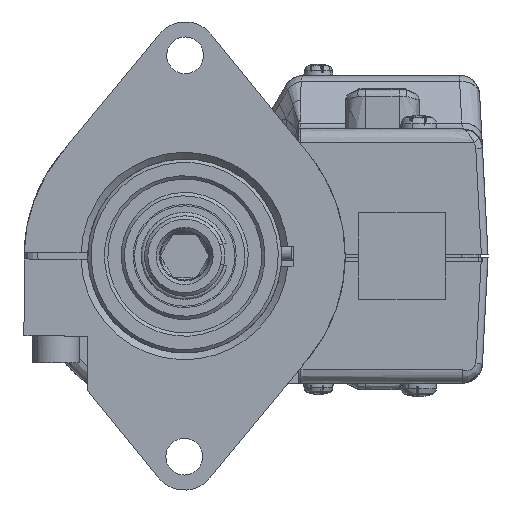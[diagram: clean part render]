
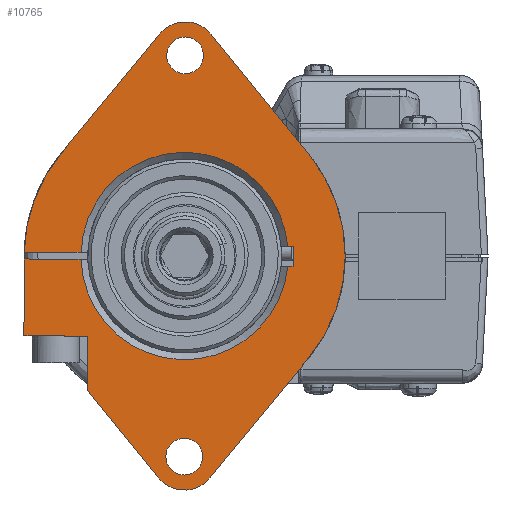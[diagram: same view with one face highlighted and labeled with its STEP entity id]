
A CAD part, left-side view. The second image highlights one B-rep face of the part: STEP entity #10765.
In plain terms, the highlighted planar face has unit normal (-1, 0, 0).
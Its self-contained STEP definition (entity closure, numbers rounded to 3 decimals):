
#9475=CARTESIAN_POINT('',(227.286,541.517,-20.248));
#9476=VERTEX_POINT('',#9475);
#9483=CARTESIAN_POINT('',(227.286,556.26,-38.182));
#9484=VERTEX_POINT('',#9483);
#9485=CARTESIAN_POINT('',(227.286,556.26,-38.182));
#9486=DIRECTION('',(0.,-0.635,0.772));
#9487=VECTOR('',#9486,23.216);
#9488=LINE('',#9485,#9487);
#9489=EDGE_CURVE('',#9484,#9476,#9488,.T.);
#9514=CARTESIAN_POINT('',(227.286,541.45,10.152));
#9515=VERTEX_POINT('',#9514);
#9522=CARTESIAN_POINT('',(227.286,560.057,-5.007));
#9523=DIRECTION('',(-1.,0.,0.));
#9524=DIRECTION('',(0.,-0.772,-0.635));
#9525=AXIS2_PLACEMENT_3D('',#9522,#9523,#9524);
#9526=CIRCLE('',#9525,24.);
#9527=EDGE_CURVE('',#9476,#9515,#9526,.T.);
#9546=CARTESIAN_POINT('',(227.286,556.114,28.151));
#9547=VERTEX_POINT('',#9546);
#9554=CARTESIAN_POINT('',(227.286,541.45,10.152));
#9555=DIRECTION('',(0.,0.632,0.775));
#9556=VECTOR('',#9555,23.216);
#9557=LINE('',#9554,#9556);
#9558=EDGE_CURVE('',#9515,#9547,#9557,.T.);
#9578=CARTESIAN_POINT('',(227.286,563.853,28.168));
#9579=VERTEX_POINT('',#9578);
#9586=CARTESIAN_POINT('',(227.286,559.991,24.993));
#9587=DIRECTION('',(-1.,0.,0.));
#9588=DIRECTION('',(0.,-0.775,0.632));
#9589=AXIS2_PLACEMENT_3D('',#9586,#9587,#9588);
#9590=CIRCLE('',#9589,5.);
#9591=EDGE_CURVE('',#9547,#9579,#9590,.T.);
#9636=CARTESIAN_POINT('',(227.286,578.596,10.234));
#9637=VERTEX_POINT('',#9636);
#9644=CARTESIAN_POINT('',(227.286,563.853,28.168));
#9645=DIRECTION('',(0.,0.635,-0.772));
#9646=VECTOR('',#9645,23.216);
#9647=LINE('',#9644,#9646);
#9648=EDGE_CURVE('',#9579,#9637,#9647,.T.);
#9668=CARTESIAN_POINT('',(227.286,584.05,-4.454));
#9669=VERTEX_POINT('',#9668);
#9676=CARTESIAN_POINT('',(227.286,560.057,-5.007));
#9677=DIRECTION('',(-1.,0.,0.));
#9678=DIRECTION('',(0.,0.772,0.635));
#9679=AXIS2_PLACEMENT_3D('',#9676,#9677,#9678);
#9680=CIRCLE('',#9679,24.);
#9681=EDGE_CURVE('',#9637,#9669,#9680,.T.);
#9731=CARTESIAN_POINT('',(227.286,543.86,-6.543));
#9732=VERTEX_POINT('',#9731);
#9739=CARTESIAN_POINT('',(227.286,543.853,-3.543));
#9740=VERTEX_POINT('',#9739);
#9741=CARTESIAN_POINT('',(227.286,543.853,-3.543));
#9742=DIRECTION('',(0.,0.002,-1.));
#9743=VECTOR('',#9742,3.);
#9744=LINE('',#9741,#9743);
#9745=EDGE_CURVE('',#9740,#9732,#9744,.T.);
#9771=CARTESIAN_POINT('',(227.286,584.083,-16.954));
#9772=VERTEX_POINT('',#9771);
#9779=CARTESIAN_POINT('',(227.286,584.058,-5.454));
#9780=VERTEX_POINT('',#9779);
#9781=CARTESIAN_POINT('',(227.286,584.058,-5.454));
#9782=DIRECTION('',(0.,0.002,-1.));
#9783=VECTOR('',#9782,11.5);
#9784=LINE('',#9781,#9783);
#9785=EDGE_CURVE('',#9780,#9772,#9784,.T.);
#9809=CARTESIAN_POINT('',(227.286,574.583,-16.975));
#9810=VERTEX_POINT('',#9809);
#9817=CARTESIAN_POINT('',(227.286,584.083,-16.954));
#9818=DIRECTION('',(0.,-1.,-0.002));
#9819=VECTOR('',#9818,9.5);
#9820=LINE('',#9817,#9819);
#9821=EDGE_CURVE('',#9772,#9810,#9820,.T.);
#9860=CARTESIAN_POINT('',(227.286,574.601,-25.152));
#9861=VERTEX_POINT('',#9860);
#9868=CARTESIAN_POINT('',(227.286,574.583,-16.975));
#9869=DIRECTION('',(0.,0.002,-1.));
#9870=VECTOR('',#9869,8.177);
#9871=LINE('',#9868,#9870);
#9872=EDGE_CURVE('',#9810,#9861,#9871,.T.);
#9891=CARTESIAN_POINT('',(227.286,563.999,-38.165));
#9892=VERTEX_POINT('',#9891);
#9899=CARTESIAN_POINT('',(227.286,574.601,-25.152));
#9900=DIRECTION('',(0.,-0.632,-0.775));
#9901=VECTOR('',#9900,16.785);
#9902=LINE('',#9899,#9901);
#9903=EDGE_CURVE('',#9861,#9892,#9902,.T.);
#9922=CARTESIAN_POINT('',(227.286,560.123,-35.007));
#9923=DIRECTION('',(-1.,0.,0.));
#9924=DIRECTION('',(0.,0.775,-0.632));
#9925=AXIS2_PLACEMENT_3D('',#9922,#9923,#9924);
#9926=CIRCLE('',#9925,5.);
#9927=EDGE_CURVE('',#9892,#9484,#9926,.T.);
#10027=CARTESIAN_POINT('',(227.286,562.741,24.999));
#10028=VERTEX_POINT('',#10027);
#10035=CARTESIAN_POINT('',(227.286,557.241,24.987));
#10036=VERTEX_POINT('',#10035);
#10037=CARTESIAN_POINT('',(227.286,559.991,24.993));
#10038=DIRECTION('',(-1.,0.,0.));
#10039=DIRECTION('',(0.,1.,0.002));
#10040=AXIS2_PLACEMENT_3D('',#10037,#10038,#10039);
#10041=CIRCLE('',#10040,2.75);
#10042=EDGE_CURVE('',#10028,#10036,#10041,.T.);
#10044=CARTESIAN_POINT('',(227.286,559.991,24.993));
#10045=DIRECTION('',(-1.,0.,0.));
#10046=DIRECTION('',(0.,1.,0.002));
#10047=AXIS2_PLACEMENT_3D('',#10044,#10045,#10046);
#10048=CIRCLE('',#10047,2.75);
#10049=EDGE_CURVE('',#10036,#10028,#10048,.T.);
#10078=CARTESIAN_POINT('',(227.286,562.873,-35.001));
#10079=VERTEX_POINT('',#10078);
#10086=CARTESIAN_POINT('',(227.286,557.373,-35.013));
#10087=VERTEX_POINT('',#10086);
#10088=CARTESIAN_POINT('',(227.286,560.123,-35.007));
#10089=DIRECTION('',(-1.,0.,0.));
#10090=DIRECTION('',(0.,1.,0.002));
#10091=AXIS2_PLACEMENT_3D('',#10088,#10089,#10090);
#10092=CIRCLE('',#10091,2.75);
#10093=EDGE_CURVE('',#10079,#10087,#10092,.T.);
#10095=CARTESIAN_POINT('',(227.286,560.123,-35.007));
#10096=DIRECTION('',(-1.,0.,0.));
#10097=DIRECTION('',(0.,1.,0.002));
#10098=AXIS2_PLACEMENT_3D('',#10095,#10096,#10097);
#10099=CIRCLE('',#10098,2.75);
#10100=EDGE_CURVE('',#10087,#10079,#10099,.T.);
#10120=CARTESIAN_POINT('',(227.286,575.55,-5.473));
#10121=VERTEX_POINT('',#10120);
#10122=CARTESIAN_POINT('',(227.286,575.55,-5.473));
#10123=DIRECTION('',(0.,1.,0.002));
#10124=VECTOR('',#10123,8.508);
#10125=LINE('',#10122,#10124);
#10126=EDGE_CURVE('',#10121,#9780,#10125,.T.);
#10282=CARTESIAN_POINT('',(227.286,544.633,-6.541));
#10283=VERTEX_POINT('',#10282);
#10290=CARTESIAN_POINT('',(227.286,543.86,-6.543));
#10291=DIRECTION('',(0.,1.,0.002));
#10292=VECTOR('',#10291,0.773);
#10293=LINE('',#10290,#10292);
#10294=EDGE_CURVE('',#9732,#10283,#10293,.T.);
#10307=CARTESIAN_POINT('',(227.286,544.626,-3.541));
#10308=VERTEX_POINT('',#10307);
#10338=CARTESIAN_POINT('',(227.286,544.626,-3.541));
#10339=DIRECTION('',(0.,-1.,-0.002));
#10340=VECTOR('',#10339,0.773);
#10341=LINE('',#10338,#10340);
#10342=EDGE_CURVE('',#10308,#9740,#10341,.T.);
#10434=CARTESIAN_POINT('',(227.286,575.548,-4.473));
#10435=VERTEX_POINT('',#10434);
#10436=CARTESIAN_POINT('',(227.286,560.057,-5.007));
#10437=DIRECTION('',(1.,0.,0.));
#10438=DIRECTION('',(0.,1.,0.002));
#10439=AXIS2_PLACEMENT_3D('',#10436,#10437,#10438);
#10440=CIRCLE('',#10439,15.5);
#10441=EDGE_CURVE('',#10435,#10308,#10440,.T.);
#10481=CARTESIAN_POINT('',(227.286,584.05,-4.454));
#10482=DIRECTION('',(0.,-1.,-0.002));
#10483=VECTOR('',#10482,8.503);
#10484=LINE('',#10481,#10483);
#10485=EDGE_CURVE('',#9669,#10435,#10484,.T.);
#10675=CARTESIAN_POINT('',(227.286,560.057,-5.007));
#10676=DIRECTION('',(1.,0.,0.));
#10677=DIRECTION('',(0.,0.999,-0.032));
#10678=AXIS2_PLACEMENT_3D('',#10675,#10676,#10677);
#10679=CIRCLE('',#10678,15.5);
#10680=EDGE_CURVE('',#10283,#10121,#10679,.T.);
#10732=CARTESIAN_POINT('',(227.286,531.164,36.93));
#10733=DIRECTION('',(-1.,0.,0.));
#10734=DIRECTION('',(0.,1.,0.002));
#10735=AXIS2_PLACEMENT_3D('',#10732,#10733,#10734);
#10736=PLANE('',#10735);
#10737=ORIENTED_EDGE('',*,*,#9489,.T.);
#10738=ORIENTED_EDGE('',*,*,#9527,.T.);
#10739=ORIENTED_EDGE('',*,*,#9558,.T.);
#10740=ORIENTED_EDGE('',*,*,#9591,.T.);
#10741=ORIENTED_EDGE('',*,*,#9648,.T.);
#10742=ORIENTED_EDGE('',*,*,#9681,.T.);
#10743=ORIENTED_EDGE('',*,*,#10485,.T.);
#10744=ORIENTED_EDGE('',*,*,#10441,.T.);
#10745=ORIENTED_EDGE('',*,*,#10342,.T.);
#10746=ORIENTED_EDGE('',*,*,#9745,.T.);
#10747=ORIENTED_EDGE('',*,*,#10294,.T.);
#10748=ORIENTED_EDGE('',*,*,#10680,.T.);
#10749=ORIENTED_EDGE('',*,*,#10126,.T.);
#10750=ORIENTED_EDGE('',*,*,#9785,.T.);
#10751=ORIENTED_EDGE('',*,*,#9821,.T.);
#10752=ORIENTED_EDGE('',*,*,#9872,.T.);
#10753=ORIENTED_EDGE('',*,*,#9903,.T.);
#10754=ORIENTED_EDGE('',*,*,#9927,.T.);
#10755=EDGE_LOOP('',(#10737,#10738,#10739,#10740,#10741,#10742,#10743,#10744,#10745,#10746,#10747,#10748,#10749,#10750,#10751,#10752,#10753,#10754));
#10756=FACE_OUTER_BOUND('',#10755,.T.);
#10757=ORIENTED_EDGE('',*,*,#10049,.F.);
#10758=ORIENTED_EDGE('',*,*,#10042,.F.);
#10759=EDGE_LOOP('',(#10757,#10758));
#10760=FACE_BOUND('',#10759,.T.);
#10761=ORIENTED_EDGE('',*,*,#10100,.F.);
#10762=ORIENTED_EDGE('',*,*,#10093,.F.);
#10763=EDGE_LOOP('',(#10761,#10762));
#10764=FACE_BOUND('',#10763,.T.);
#10765=ADVANCED_FACE('',(#10756,#10760,#10764),#10736,.T.);
